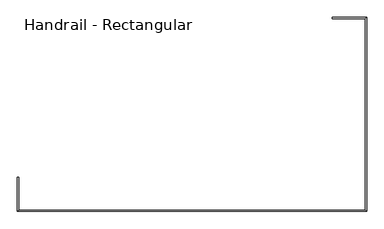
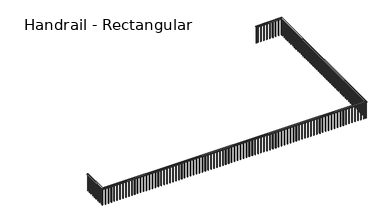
"""IFC4 building model written with IfcOpenShell, lengths in millimetres: railing geometry, Handrail - Rectangular."""

from ifc_helpers import new_model, si_unit, frame, origin, place, context, project, spatial, polyline, outline, extrude, faceted_brep, source, transform, mapped, element, save


def handrail_rectangular_d3f7d17f(model_context):
    return source(origin(), model_context, "Body", "SolidModel", [
        faceted_brep([(-11342.6589563, -34232.3683133, 10058.4), (-11342.6589563, -34232.3683133, 10007.6), (-11393.4589563, -34232.3683133, 10007.6), (-11393.4589563, -34232.3683133, 10058.4), (-11393.4589563, -35578.5683133, 10058.4), (-11342.6589563, -35527.7683133, 10058.4), (-11393.4589563, -35578.5683133, 10007.6), (-11342.6589563, -35527.7683133, 10007.6), (2322.5410437, -35578.5683133, 10058.4), (2271.7410437, -35527.7683133, 10058.4), (2322.5410437, -35578.5683133, 10007.6), (2271.7410437, -35527.7683133, 10007.6), (2322.5410437, -27958.5683133, 10058.4), (2271.7410437, -28009.3683133, 10058.4), (2322.5410437, -27958.5683133, 10007.6), (2271.7410437, -28009.3683133, 10007.6), (976.3410437, -28009.3683133, 10058.4), (976.3410437, -27958.5683133, 10058.4), (976.3410437, -27958.5683133, 10007.6), (976.3410437, -28009.3683133, 10007.6)], [[[0, 1, 2, 3]], [[0, 3, 4, 5]], [[3, 2, 6, 4]], [[2, 1, 7, 6]], [[1, 0, 5, 7]], [[5, 4, 8, 9]], [[4, 6, 10, 8]], [[6, 7, 11, 10]], [[7, 5, 9, 11]], [[9, 8, 12, 13]], [[8, 10, 14, 12]], [[10, 11, 15, 14]], [[11, 9, 13, 15]], [[16, 17, 18, 19]], [[13, 12, 17, 16]], [[12, 14, 18, 17]], [[14, 15, 19, 18]], [[15, 13, 16, 19]]]),
        extrude(outline(polyline([(1087.4660437, -27993.4933133), (1068.4160437, -27993.4933133), (1068.4160437, -27974.4433133), (1087.4660437, -27974.4433133), (1087.4660437, -27993.4933133)])), frame((0.0, 0.0, 9144.0), z_axis=(0.0, 0.0, 1.0), x_axis=(1.0, 0.0, 0.0)), (0.0, 0.0, 1.0), 863.6),
        extrude(outline(polyline([(1239.8660437, -27993.4933133), (1220.8160437, -27993.4933133), (1220.8160437, -27974.4433133), (1239.8660437, -27974.4433133), (1239.8660437, -27993.4933133)])), frame((0.0, 0.0, 9144.0), z_axis=(0.0, 0.0, 1.0), x_axis=(1.0, 0.0, 0.0)), (0.0, 0.0, 1.0), 863.6),
        extrude(outline(polyline([(1392.2660437, -27993.4933133), (1373.2160437, -27993.4933133), (1373.2160437, -27974.4433133), (1392.2660437, -27974.4433133), (1392.2660437, -27993.4933133)])), frame((0.0, 0.0, 9144.0), z_axis=(0.0, 0.0, 1.0), x_axis=(1.0, 0.0, 0.0)), (0.0, 0.0, 1.0), 863.6),
        extrude(outline(polyline([(1544.6660437, -27993.4933133), (1525.6160437, -27993.4933133), (1525.6160437, -27974.4433133), (1544.6660437, -27974.4433133), (1544.6660437, -27993.4933133)])), frame((0.0, 0.0, 9144.0), z_axis=(0.0, 0.0, 1.0), x_axis=(1.0, 0.0, 0.0)), (0.0, 0.0, 1.0), 863.6),
        extrude(outline(polyline([(1697.0660437, -27993.4933133), (1678.0160437, -27993.4933133), (1678.0160437, -27974.4433133), (1697.0660437, -27974.4433133), (1697.0660437, -27993.4933133)])), frame((0.0, 0.0, 9144.0), z_axis=(0.0, 0.0, 1.0), x_axis=(1.0, 0.0, 0.0)), (0.0, 0.0, 1.0), 863.6),
        extrude(outline(polyline([(1849.4660437, -27993.4933133), (1830.4160437, -27993.4933133), (1830.4160437, -27974.4433133), (1849.4660437, -27974.4433133), (1849.4660437, -27993.4933133)])), frame((0.0, 0.0, 9144.0), z_axis=(0.0, 0.0, 1.0), x_axis=(1.0, 0.0, 0.0)), (0.0, 0.0, 1.0), 863.6),
        extrude(outline(polyline([(2001.8660437, -27993.4933133), (1982.8160437, -27993.4933133), (1982.8160437, -27974.4433133), (2001.8660437, -27974.4433133), (2001.8660437, -27993.4933133)])), frame((0.0, 0.0, 9144.0), z_axis=(0.0, 0.0, 1.0), x_axis=(1.0, 0.0, 0.0)), (0.0, 0.0, 1.0), 863.6),
        extrude(outline(polyline([(2154.2660437, -27993.4933133), (2135.2160437, -27993.4933133), (2135.2160437, -27974.4433133), (2154.2660437, -27974.4433133), (2154.2660437, -27993.4933133)])), frame((0.0, 0.0, 9144.0), z_axis=(0.0, 0.0, 1.0), x_axis=(1.0, 0.0, 0.0)), (0.0, 0.0, 1.0), 863.6),
        extrude(outline(polyline([(2287.6160437, -28095.0933133), (2287.6160437, -28076.0433133), (2306.6660437, -28076.0433133), (2306.6660437, -28095.0933133), (2287.6160437, -28095.0933133)])), frame((0.0, 0.0, 9144.0), z_axis=(0.0, 0.0, 1.0), x_axis=(1.0, 0.0, 0.0)), (0.0, 0.0, 1.0), 863.6),
        extrude(outline(polyline([(2287.6160437, -28247.4933133), (2287.6160437, -28228.4433133), (2306.6660437, -28228.4433133), (2306.6660437, -28247.4933133), (2287.6160437, -28247.4933133)])), frame((0.0, 0.0, 9144.0), z_axis=(0.0, 0.0, 1.0), x_axis=(1.0, 0.0, 0.0)), (0.0, 0.0, 1.0), 863.6),
        extrude(outline(polyline([(2287.6160437, -28399.8933133), (2287.6160437, -28380.8433133), (2306.6660437, -28380.8433133), (2306.6660437, -28399.8933133), (2287.6160437, -28399.8933133)])), frame((0.0, 0.0, 9144.0), z_axis=(0.0, 0.0, 1.0), x_axis=(1.0, 0.0, 0.0)), (0.0, 0.0, 1.0), 863.6),
        extrude(outline(polyline([(2287.6160437, -28552.2933133), (2287.6160437, -28533.2433133), (2306.6660437, -28533.2433133), (2306.6660437, -28552.2933133), (2287.6160437, -28552.2933133)])), frame((0.0, 0.0, 9144.0), z_axis=(0.0, 0.0, 1.0), x_axis=(1.0, 0.0, 0.0)), (0.0, 0.0, 1.0), 863.6),
        extrude(outline(polyline([(2287.6160437, -28704.6933133), (2287.6160437, -28685.6433133), (2306.6660437, -28685.6433133), (2306.6660437, -28704.6933133), (2287.6160437, -28704.6933133)])), frame((0.0, 0.0, 9144.0), z_axis=(0.0, 0.0, 1.0), x_axis=(1.0, 0.0, 0.0)), (0.0, 0.0, 1.0), 863.6),
        extrude(outline(polyline([(2287.6160437, -28857.0933133), (2287.6160437, -28838.0433133), (2306.6660437, -28838.0433133), (2306.6660437, -28857.0933133), (2287.6160437, -28857.0933133)])), frame((0.0, 0.0, 9144.0), z_axis=(0.0, 0.0, 1.0), x_axis=(1.0, 0.0, 0.0)), (0.0, 0.0, 1.0), 863.6),
        extrude(outline(polyline([(2287.6160437, -29009.4933133), (2287.6160437, -28990.4433133), (2306.6660437, -28990.4433133), (2306.6660437, -29009.4933133), (2287.6160437, -29009.4933133)])), frame((0.0, 0.0, 9144.0), z_axis=(0.0, 0.0, 1.0), x_axis=(1.0, 0.0, 0.0)), (0.0, 0.0, 1.0), 863.6),
        extrude(outline(polyline([(2287.6160437, -29161.8933133), (2287.6160437, -29142.8433133), (2306.6660437, -29142.8433133), (2306.6660437, -29161.8933133), (2287.6160437, -29161.8933133)])), frame((0.0, 0.0, 9144.0), z_axis=(0.0, 0.0, 1.0), x_axis=(1.0, 0.0, 0.0)), (0.0, 0.0, 1.0), 863.6),
        extrude(outline(polyline([(2287.6160437, -29314.2933133), (2287.6160437, -29295.2433133), (2306.6660437, -29295.2433133), (2306.6660437, -29314.2933133), (2287.6160437, -29314.2933133)])), frame((0.0, 0.0, 9144.0), z_axis=(0.0, 0.0, 1.0), x_axis=(1.0, 0.0, 0.0)), (0.0, 0.0, 1.0), 863.6),
        extrude(outline(polyline([(2287.6160437, -29466.6933133), (2287.6160437, -29447.6433133), (2306.6660437, -29447.6433133), (2306.6660437, -29466.6933133), (2287.6160437, -29466.6933133)])), frame((0.0, 0.0, 9144.0), z_axis=(0.0, 0.0, 1.0), x_axis=(1.0, 0.0, 0.0)), (0.0, 0.0, 1.0), 863.6),
        extrude(outline(polyline([(2287.6160437, -29619.0933133), (2287.6160437, -29600.0433133), (2306.6660437, -29600.0433133), (2306.6660437, -29619.0933133), (2287.6160437, -29619.0933133)])), frame((0.0, 0.0, 9144.0), z_axis=(0.0, 0.0, 1.0), x_axis=(1.0, 0.0, 0.0)), (0.0, 0.0, 1.0), 863.6),
        extrude(outline(polyline([(2287.6160437, -29771.4933133), (2287.6160437, -29752.4433133), (2306.6660437, -29752.4433133), (2306.6660437, -29771.4933133), (2287.6160437, -29771.4933133)])), frame((0.0, 0.0, 9144.0), z_axis=(0.0, 0.0, 1.0), x_axis=(1.0, 0.0, 0.0)), (0.0, 0.0, 1.0), 863.6),
        extrude(outline(polyline([(2287.6160437, -29923.8933133), (2287.6160437, -29904.8433133), (2306.6660437, -29904.8433133), (2306.6660437, -29923.8933133), (2287.6160437, -29923.8933133)])), frame((0.0, 0.0, 9144.0), z_axis=(0.0, 0.0, 1.0), x_axis=(1.0, 0.0, 0.0)), (0.0, 0.0, 1.0), 863.6),
        extrude(outline(polyline([(2287.6160437, -30076.2933133), (2287.6160437, -30057.2433133), (2306.6660437, -30057.2433133), (2306.6660437, -30076.2933133), (2287.6160437, -30076.2933133)])), frame((0.0, 0.0, 9144.0), z_axis=(0.0, 0.0, 1.0), x_axis=(1.0, 0.0, 0.0)), (0.0, 0.0, 1.0), 863.6),
        extrude(outline(polyline([(2287.6160437, -30228.6933133), (2287.6160437, -30209.6433133), (2306.6660437, -30209.6433133), (2306.6660437, -30228.6933133), (2287.6160437, -30228.6933133)])), frame((0.0, 0.0, 9144.0), z_axis=(0.0, 0.0, 1.0), x_axis=(1.0, 0.0, 0.0)), (0.0, 0.0, 1.0), 863.6),
        extrude(outline(polyline([(2287.6160437, -30381.0933133), (2287.6160437, -30362.0433133), (2306.6660437, -30362.0433133), (2306.6660437, -30381.0933133), (2287.6160437, -30381.0933133)])), frame((0.0, 0.0, 9144.0), z_axis=(0.0, 0.0, 1.0), x_axis=(1.0, 0.0, 0.0)), (0.0, 0.0, 1.0), 863.6),
        extrude(outline(polyline([(2287.6160437, -30533.4933133), (2287.6160437, -30514.4433133), (2306.6660437, -30514.4433133), (2306.6660437, -30533.4933133), (2287.6160437, -30533.4933133)])), frame((0.0, 0.0, 9144.0), z_axis=(0.0, 0.0, 1.0), x_axis=(1.0, 0.0, 0.0)), (0.0, 0.0, 1.0), 863.6),
        extrude(outline(polyline([(2287.6160437, -30685.8933133), (2287.6160437, -30666.8433133), (2306.6660437, -30666.8433133), (2306.6660437, -30685.8933133), (2287.6160437, -30685.8933133)])), frame((0.0, 0.0, 9144.0), z_axis=(0.0, 0.0, 1.0), x_axis=(1.0, 0.0, 0.0)), (0.0, 0.0, 1.0), 863.6),
        extrude(outline(polyline([(2287.6160437, -30838.2933133), (2287.6160437, -30819.2433133), (2306.6660437, -30819.2433133), (2306.6660437, -30838.2933133), (2287.6160437, -30838.2933133)])), frame((0.0, 0.0, 9144.0), z_axis=(0.0, 0.0, 1.0), x_axis=(1.0, 0.0, 0.0)), (0.0, 0.0, 1.0), 863.6),
        extrude(outline(polyline([(2287.6160437, -30990.6933133), (2287.6160437, -30971.6433133), (2306.6660437, -30971.6433133), (2306.6660437, -30990.6933133), (2287.6160437, -30990.6933133)])), frame((0.0, 0.0, 9144.0), z_axis=(0.0, 0.0, 1.0), x_axis=(1.0, 0.0, 0.0)), (0.0, 0.0, 1.0), 863.6),
        extrude(outline(polyline([(2287.6160437, -31143.0933133), (2287.6160437, -31124.0433133), (2306.6660437, -31124.0433133), (2306.6660437, -31143.0933133), (2287.6160437, -31143.0933133)])), frame((0.0, 0.0, 9144.0), z_axis=(0.0, 0.0, 1.0), x_axis=(1.0, 0.0, 0.0)), (0.0, 0.0, 1.0), 863.6),
        extrude(outline(polyline([(2287.6160437, -31295.4933133), (2287.6160437, -31276.4433133), (2306.6660437, -31276.4433133), (2306.6660437, -31295.4933133), (2287.6160437, -31295.4933133)])), frame((0.0, 0.0, 9144.0), z_axis=(0.0, 0.0, 1.0), x_axis=(1.0, 0.0, 0.0)), (0.0, 0.0, 1.0), 863.6),
        extrude(outline(polyline([(2287.6160437, -31447.8933133), (2287.6160437, -31428.8433133), (2306.6660437, -31428.8433133), (2306.6660437, -31447.8933133), (2287.6160437, -31447.8933133)])), frame((0.0, 0.0, 9144.0), z_axis=(0.0, 0.0, 1.0), x_axis=(1.0, 0.0, 0.0)), (0.0, 0.0, 1.0), 863.6),
        extrude(outline(polyline([(2287.6160437, -31600.2933133), (2287.6160437, -31581.2433133), (2306.6660437, -31581.2433133), (2306.6660437, -31600.2933133), (2287.6160437, -31600.2933133)])), frame((0.0, 0.0, 9144.0), z_axis=(0.0, 0.0, 1.0), x_axis=(1.0, 0.0, 0.0)), (0.0, 0.0, 1.0), 863.6),
        extrude(outline(polyline([(2287.6160437, -31752.6933133), (2287.6160437, -31733.6433133), (2306.6660437, -31733.6433133), (2306.6660437, -31752.6933133), (2287.6160437, -31752.6933133)])), frame((0.0, 0.0, 9144.0), z_axis=(0.0, 0.0, 1.0), x_axis=(1.0, 0.0, 0.0)), (0.0, 0.0, 1.0), 863.6),
        extrude(outline(polyline([(2287.6160437, -31905.0933133), (2287.6160437, -31886.0433133), (2306.6660437, -31886.0433133), (2306.6660437, -31905.0933133), (2287.6160437, -31905.0933133)])), frame((0.0, 0.0, 9144.0), z_axis=(0.0, 0.0, 1.0), x_axis=(1.0, 0.0, 0.0)), (0.0, 0.0, 1.0), 863.6),
        extrude(outline(polyline([(2287.6160437, -32057.4933133), (2287.6160437, -32038.4433133), (2306.6660437, -32038.4433133), (2306.6660437, -32057.4933133), (2287.6160437, -32057.4933133)])), frame((0.0, 0.0, 9144.0), z_axis=(0.0, 0.0, 1.0), x_axis=(1.0, 0.0, 0.0)), (0.0, 0.0, 1.0), 863.6),
        extrude(outline(polyline([(2287.6160437, -32209.8933133), (2287.6160437, -32190.8433133), (2306.6660437, -32190.8433133), (2306.6660437, -32209.8933133), (2287.6160437, -32209.8933133)])), frame((0.0, 0.0, 9144.0), z_axis=(0.0, 0.0, 1.0), x_axis=(1.0, 0.0, 0.0)), (0.0, 0.0, 1.0), 863.6),
        extrude(outline(polyline([(2287.6160437, -32362.2933133), (2287.6160437, -32343.2433133), (2306.6660437, -32343.2433133), (2306.6660437, -32362.2933133), (2287.6160437, -32362.2933133)])), frame((0.0, 0.0, 9144.0), z_axis=(0.0, 0.0, 1.0), x_axis=(1.0, 0.0, 0.0)), (0.0, 0.0, 1.0), 863.6),
        extrude(outline(polyline([(2287.6160437, -32514.6933133), (2287.6160437, -32495.6433133), (2306.6660437, -32495.6433133), (2306.6660437, -32514.6933133), (2287.6160437, -32514.6933133)])), frame((0.0, 0.0, 9144.0), z_axis=(0.0, 0.0, 1.0), x_axis=(1.0, 0.0, 0.0)), (0.0, 0.0, 1.0), 863.6),
        extrude(outline(polyline([(2287.6160437, -32667.0933133), (2287.6160437, -32648.0433133), (2306.6660437, -32648.0433133), (2306.6660437, -32667.0933133), (2287.6160437, -32667.0933133)])), frame((0.0, 0.0, 9144.0), z_axis=(0.0, 0.0, 1.0), x_axis=(1.0, 0.0, 0.0)), (0.0, 0.0, 1.0), 863.6),
        extrude(outline(polyline([(2287.6160437, -32819.4933133), (2287.6160437, -32800.4433133), (2306.6660437, -32800.4433133), (2306.6660437, -32819.4933133), (2287.6160437, -32819.4933133)])), frame((0.0, 0.0, 9144.0), z_axis=(0.0, 0.0, 1.0), x_axis=(1.0, 0.0, 0.0)), (0.0, 0.0, 1.0), 863.6),
        extrude(outline(polyline([(2287.6160437, -32971.8933133), (2287.6160437, -32952.8433133), (2306.6660437, -32952.8433133), (2306.6660437, -32971.8933133), (2287.6160437, -32971.8933133)])), frame((0.0, 0.0, 9144.0), z_axis=(0.0, 0.0, 1.0), x_axis=(1.0, 0.0, 0.0)), (0.0, 0.0, 1.0), 863.6),
        extrude(outline(polyline([(2287.6160437, -33124.2933133), (2287.6160437, -33105.2433133), (2306.6660437, -33105.2433133), (2306.6660437, -33124.2933133), (2287.6160437, -33124.2933133)])), frame((0.0, 0.0, 9144.0), z_axis=(0.0, 0.0, 1.0), x_axis=(1.0, 0.0, 0.0)), (0.0, 0.0, 1.0), 863.6),
        extrude(outline(polyline([(2287.6160437, -33276.6933133), (2287.6160437, -33257.6433133), (2306.6660437, -33257.6433133), (2306.6660437, -33276.6933133), (2287.6160437, -33276.6933133)])), frame((0.0, 0.0, 9144.0), z_axis=(0.0, 0.0, 1.0), x_axis=(1.0, 0.0, 0.0)), (0.0, 0.0, 1.0), 863.6),
        extrude(outline(polyline([(2287.6160437, -33429.0933133), (2287.6160437, -33410.0433133), (2306.6660437, -33410.0433133), (2306.6660437, -33429.0933133), (2287.6160437, -33429.0933133)])), frame((0.0, 0.0, 9144.0), z_axis=(0.0, 0.0, 1.0), x_axis=(1.0, 0.0, 0.0)), (0.0, 0.0, 1.0), 863.6),
        extrude(outline(polyline([(2287.6160437, -33581.4933133), (2287.6160437, -33562.4433133), (2306.6660437, -33562.4433133), (2306.6660437, -33581.4933133), (2287.6160437, -33581.4933133)])), frame((0.0, 0.0, 9144.0), z_axis=(0.0, 0.0, 1.0), x_axis=(1.0, 0.0, 0.0)), (0.0, 0.0, 1.0), 863.6),
        extrude(outline(polyline([(2287.6160437, -33733.8933133), (2287.6160437, -33714.8433133), (2306.6660437, -33714.8433133), (2306.6660437, -33733.8933133), (2287.6160437, -33733.8933133)])), frame((0.0, 0.0, 9144.0), z_axis=(0.0, 0.0, 1.0), x_axis=(1.0, 0.0, 0.0)), (0.0, 0.0, 1.0), 863.6),
        extrude(outline(polyline([(2287.6160437, -33886.2933133), (2287.6160437, -33867.2433133), (2306.6660437, -33867.2433133), (2306.6660437, -33886.2933133), (2287.6160437, -33886.2933133)])), frame((0.0, 0.0, 9144.0), z_axis=(0.0, 0.0, 1.0), x_axis=(1.0, 0.0, 0.0)), (0.0, 0.0, 1.0), 863.6),
        extrude(outline(polyline([(2287.6160437, -34038.6933133), (2287.6160437, -34019.6433133), (2306.6660437, -34019.6433133), (2306.6660437, -34038.6933133), (2287.6160437, -34038.6933133)])), frame((0.0, 0.0, 9144.0), z_axis=(0.0, 0.0, 1.0), x_axis=(1.0, 0.0, 0.0)), (0.0, 0.0, 1.0), 863.6),
        extrude(outline(polyline([(2287.6160437, -34191.0933133), (2287.6160437, -34172.0433133), (2306.6660437, -34172.0433133), (2306.6660437, -34191.0933133), (2287.6160437, -34191.0933133)])), frame((0.0, 0.0, 9144.0), z_axis=(0.0, 0.0, 1.0), x_axis=(1.0, 0.0, 0.0)), (0.0, 0.0, 1.0), 863.6),
        extrude(outline(polyline([(2287.6160437, -34343.4933133), (2287.6160437, -34324.4433133), (2306.6660437, -34324.4433133), (2306.6660437, -34343.4933133), (2287.6160437, -34343.4933133)])), frame((0.0, 0.0, 9144.0), z_axis=(0.0, 0.0, 1.0), x_axis=(1.0, 0.0, 0.0)), (0.0, 0.0, 1.0), 863.6),
        extrude(outline(polyline([(2287.6160437, -34495.8933133), (2287.6160437, -34476.8433133), (2306.6660437, -34476.8433133), (2306.6660437, -34495.8933133), (2287.6160437, -34495.8933133)])), frame((0.0, 0.0, 9144.0), z_axis=(0.0, 0.0, 1.0), x_axis=(1.0, 0.0, 0.0)), (0.0, 0.0, 1.0), 863.6),
        extrude(outline(polyline([(2287.6160437, -34648.2933133), (2287.6160437, -34629.2433133), (2306.6660437, -34629.2433133), (2306.6660437, -34648.2933133), (2287.6160437, -34648.2933133)])), frame((0.0, 0.0, 9144.0), z_axis=(0.0, 0.0, 1.0), x_axis=(1.0, 0.0, 0.0)), (0.0, 0.0, 1.0), 863.6),
        extrude(outline(polyline([(2287.6160437, -34800.6933133), (2287.6160437, -34781.6433133), (2306.6660437, -34781.6433133), (2306.6660437, -34800.6933133), (2287.6160437, -34800.6933133)])), frame((0.0, 0.0, 9144.0), z_axis=(0.0, 0.0, 1.0), x_axis=(1.0, 0.0, 0.0)), (0.0, 0.0, 1.0), 863.6),
        extrude(outline(polyline([(2287.6160437, -34953.0933133), (2287.6160437, -34934.0433133), (2306.6660437, -34934.0433133), (2306.6660437, -34953.0933133), (2287.6160437, -34953.0933133)])), frame((0.0, 0.0, 9144.0), z_axis=(0.0, 0.0, 1.0), x_axis=(1.0, 0.0, 0.0)), (0.0, 0.0, 1.0), 863.6),
        extrude(outline(polyline([(2287.6160437, -35105.4933133), (2287.6160437, -35086.4433133), (2306.6660437, -35086.4433133), (2306.6660437, -35105.4933133), (2287.6160437, -35105.4933133)])), frame((0.0, 0.0, 9144.0), z_axis=(0.0, 0.0, 1.0), x_axis=(1.0, 0.0, 0.0)), (0.0, 0.0, 1.0), 863.6),
        extrude(outline(polyline([(2287.6160437, -35257.8933133), (2287.6160437, -35238.8433133), (2306.6660437, -35238.8433133), (2306.6660437, -35257.8933133), (2287.6160437, -35257.8933133)])), frame((0.0, 0.0, 9144.0), z_axis=(0.0, 0.0, 1.0), x_axis=(1.0, 0.0, 0.0)), (0.0, 0.0, 1.0), 863.6),
        extrude(outline(polyline([(2287.6160437, -35410.2933133), (2287.6160437, -35391.2433133), (2306.6660437, -35391.2433133), (2306.6660437, -35410.2933133), (2287.6160437, -35410.2933133)])), frame((0.0, 0.0, 9144.0), z_axis=(0.0, 0.0, 1.0), x_axis=(1.0, 0.0, 0.0)), (0.0, 0.0, 1.0), 863.6),
        extrude(outline(polyline([(2186.0160437, -35543.6433133), (2205.0660437, -35543.6433133), (2205.0660437, -35562.6933133), (2186.0160437, -35562.6933133), (2186.0160437, -35543.6433133)])), frame((0.0, 0.0, 9144.0), z_axis=(0.0, 0.0, 1.0), x_axis=(1.0, 0.0, 0.0)), (0.0, 0.0, 1.0), 863.6),
        extrude(outline(polyline([(2033.6160437, -35543.6433133), (2052.6660437, -35543.6433133), (2052.6660437, -35562.6933133), (2033.6160437, -35562.6933133), (2033.6160437, -35543.6433133)])), frame((0.0, 0.0, 9144.0), z_axis=(0.0, 0.0, 1.0), x_axis=(1.0, 0.0, 0.0)), (0.0, 0.0, 1.0), 863.6),
        extrude(outline(polyline([(1881.2160437, -35543.6433133), (1900.2660437, -35543.6433133), (1900.2660437, -35562.6933133), (1881.2160437, -35562.6933133), (1881.2160437, -35543.6433133)])), frame((0.0, 0.0, 9144.0), z_axis=(0.0, 0.0, 1.0), x_axis=(1.0, 0.0, 0.0)), (0.0, 0.0, 1.0), 863.6),
        extrude(outline(polyline([(1728.8160437, -35543.6433133), (1747.8660437, -35543.6433133), (1747.8660437, -35562.6933133), (1728.8160437, -35562.6933133), (1728.8160437, -35543.6433133)])), frame((0.0, 0.0, 9144.0), z_axis=(0.0, 0.0, 1.0), x_axis=(1.0, 0.0, 0.0)), (0.0, 0.0, 1.0), 863.6),
        extrude(outline(polyline([(1576.4160437, -35543.6433133), (1595.4660437, -35543.6433133), (1595.4660437, -35562.6933133), (1576.4160437, -35562.6933133), (1576.4160437, -35543.6433133)])), frame((0.0, 0.0, 9144.0), z_axis=(0.0, 0.0, 1.0), x_axis=(1.0, 0.0, 0.0)), (0.0, 0.0, 1.0), 863.6),
        extrude(outline(polyline([(1424.0160437, -35543.6433133), (1443.0660437, -35543.6433133), (1443.0660437, -35562.6933133), (1424.0160437, -35562.6933133), (1424.0160437, -35543.6433133)])), frame((0.0, 0.0, 9144.0), z_axis=(0.0, 0.0, 1.0), x_axis=(1.0, 0.0, 0.0)), (0.0, 0.0, 1.0), 863.6),
        extrude(outline(polyline([(1271.6160437, -35543.6433133), (1290.6660437, -35543.6433133), (1290.6660437, -35562.6933133), (1271.6160437, -35562.6933133), (1271.6160437, -35543.6433133)])), frame((0.0, 0.0, 9144.0), z_axis=(0.0, 0.0, 1.0), x_axis=(1.0, 0.0, 0.0)), (0.0, 0.0, 1.0), 863.6),
        extrude(outline(polyline([(1119.2160437, -35543.6433133), (1138.2660437, -35543.6433133), (1138.2660437, -35562.6933133), (1119.2160437, -35562.6933133), (1119.2160437, -35543.6433133)])), frame((0.0, 0.0, 9144.0), z_axis=(0.0, 0.0, 1.0), x_axis=(1.0, 0.0, 0.0)), (0.0, 0.0, 1.0), 863.6),
        extrude(outline(polyline([(966.8160437, -35543.6433133), (985.8660437, -35543.6433133), (985.8660437, -35562.6933133), (966.8160437, -35562.6933133), (966.8160437, -35543.6433133)])), frame((0.0, 0.0, 9144.0), z_axis=(0.0, 0.0, 1.0), x_axis=(1.0, 0.0, 0.0)), (0.0, 0.0, 1.0), 863.6),
        extrude(outline(polyline([(814.4160437, -35543.6433133), (833.4660437, -35543.6433133), (833.4660437, -35562.6933133), (814.4160437, -35562.6933133), (814.4160437, -35543.6433133)])), frame((0.0, 0.0, 9144.0), z_axis=(0.0, 0.0, 1.0), x_axis=(1.0, 0.0, 0.0)), (0.0, 0.0, 1.0), 863.6),
        extrude(outline(polyline([(662.0160437, -35543.6433133), (681.0660437, -35543.6433133), (681.0660437, -35562.6933133), (662.0160437, -35562.6933133), (662.0160437, -35543.6433133)])), frame((0.0, 0.0, 9144.0), z_axis=(0.0, 0.0, 1.0), x_axis=(1.0, 0.0, 0.0)), (0.0, 0.0, 1.0), 863.6),
        extrude(outline(polyline([(509.6160437, -35543.6433133), (528.6660437, -35543.6433133), (528.6660437, -35562.6933133), (509.6160437, -35562.6933133), (509.6160437, -35543.6433133)])), frame((0.0, 0.0, 9144.0), z_axis=(0.0, 0.0, 1.0), x_axis=(1.0, 0.0, 0.0)), (0.0, 0.0, 1.0), 863.6),
        extrude(outline(polyline([(357.2160437, -35543.6433133), (376.2660437, -35543.6433133), (376.2660437, -35562.6933133), (357.2160437, -35562.6933133), (357.2160437, -35543.6433133)])), frame((0.0, 0.0, 9144.0), z_axis=(0.0, 0.0, 1.0), x_axis=(1.0, 0.0, 0.0)), (0.0, 0.0, 1.0), 863.6),
        extrude(outline(polyline([(204.8160437, -35543.6433133), (223.8660437, -35543.6433133), (223.8660437, -35562.6933133), (204.8160437, -35562.6933133), (204.8160437, -35543.6433133)])), frame((0.0, 0.0, 9144.0), z_axis=(0.0, 0.0, 1.0), x_axis=(1.0, 0.0, 0.0)), (0.0, 0.0, 1.0), 863.6),
        extrude(outline(polyline([(52.4160437, -35543.6433133), (71.4660437, -35543.6433133), (71.4660437, -35562.6933133), (52.4160437, -35562.6933133), (52.4160437, -35543.6433133)])), frame((0.0, 0.0, 9144.0), z_axis=(0.0, 0.0, 1.0), x_axis=(1.0, 0.0, 0.0)), (0.0, 0.0, 1.0), 863.6),
        extrude(outline(polyline([(-99.9839563, -35543.6433133), (-80.9339563, -35543.6433133), (-80.9339563, -35562.6933133), (-99.9839563, -35562.6933133), (-99.9839563, -35543.6433133)])), frame((0.0, 0.0, 9144.0), z_axis=(0.0, 0.0, 1.0), x_axis=(1.0, 0.0, 0.0)), (0.0, 0.0, 1.0), 863.6),
        extrude(outline(polyline([(-252.3839563, -35543.6433133), (-233.3339563, -35543.6433133), (-233.3339563, -35562.6933133), (-252.3839563, -35562.6933133), (-252.3839563, -35543.6433133)])), frame((0.0, 0.0, 9144.0), z_axis=(0.0, 0.0, 1.0), x_axis=(1.0, 0.0, 0.0)), (0.0, 0.0, 1.0), 863.6),
        extrude(outline(polyline([(-404.7839563, -35543.6433133), (-385.7339563, -35543.6433133), (-385.7339563, -35562.6933133), (-404.7839563, -35562.6933133), (-404.7839563, -35543.6433133)])), frame((0.0, 0.0, 9144.0), z_axis=(0.0, 0.0, 1.0), x_axis=(1.0, 0.0, 0.0)), (0.0, 0.0, 1.0), 863.6),
        extrude(outline(polyline([(-557.1839563, -35543.6433133), (-538.1339563, -35543.6433133), (-538.1339563, -35562.6933133), (-557.1839563, -35562.6933133), (-557.1839563, -35543.6433133)])), frame((0.0, 0.0, 9144.0), z_axis=(0.0, 0.0, 1.0), x_axis=(1.0, 0.0, 0.0)), (0.0, 0.0, 1.0), 863.6),
        extrude(outline(polyline([(-709.5839563, -35543.6433133), (-690.5339563, -35543.6433133), (-690.5339563, -35562.6933133), (-709.5839563, -35562.6933133), (-709.5839563, -35543.6433133)])), frame((0.0, 0.0, 9144.0), z_axis=(0.0, 0.0, 1.0), x_axis=(1.0, 0.0, 0.0)), (0.0, 0.0, 1.0), 863.6),
        extrude(outline(polyline([(-861.9839563, -35543.6433133), (-842.9339563, -35543.6433133), (-842.9339563, -35562.6933133), (-861.9839563, -35562.6933133), (-861.9839563, -35543.6433133)])), frame((0.0, 0.0, 9144.0), z_axis=(0.0, 0.0, 1.0), x_axis=(1.0, 0.0, 0.0)), (0.0, 0.0, 1.0), 863.6),
        extrude(outline(polyline([(-1014.3839563, -35543.6433133), (-995.3339563, -35543.6433133), (-995.3339563, -35562.6933133), (-1014.3839563, -35562.6933133), (-1014.3839563, -35543.6433133)])), frame((0.0, 0.0, 9144.0), z_axis=(0.0, 0.0, 1.0), x_axis=(1.0, 0.0, 0.0)), (0.0, 0.0, 1.0), 863.6),
        extrude(outline(polyline([(-1166.7839563, -35543.6433133), (-1147.7339563, -35543.6433133), (-1147.7339563, -35562.6933133), (-1166.7839563, -35562.6933133), (-1166.7839563, -35543.6433133)])), frame((0.0, 0.0, 9144.0), z_axis=(0.0, 0.0, 1.0), x_axis=(1.0, 0.0, 0.0)), (0.0, 0.0, 1.0), 863.6),
        extrude(outline(polyline([(-1319.1839563, -35543.6433133), (-1300.1339563, -35543.6433133), (-1300.1339563, -35562.6933133), (-1319.1839563, -35562.6933133), (-1319.1839563, -35543.6433133)])), frame((0.0, 0.0, 9144.0), z_axis=(0.0, 0.0, 1.0), x_axis=(1.0, 0.0, 0.0)), (0.0, 0.0, 1.0), 863.6),
        extrude(outline(polyline([(-1471.5839563, -35543.6433133), (-1452.5339563, -35543.6433133), (-1452.5339563, -35562.6933133), (-1471.5839563, -35562.6933133), (-1471.5839563, -35543.6433133)])), frame((0.0, 0.0, 9144.0), z_axis=(0.0, 0.0, 1.0), x_axis=(1.0, 0.0, 0.0)), (0.0, 0.0, 1.0), 863.6),
        extrude(outline(polyline([(-1623.9839563, -35543.6433133), (-1604.9339563, -35543.6433133), (-1604.9339563, -35562.6933133), (-1623.9839563, -35562.6933133), (-1623.9839563, -35543.6433133)])), frame((0.0, 0.0, 9144.0), z_axis=(0.0, 0.0, 1.0), x_axis=(1.0, 0.0, 0.0)), (0.0, 0.0, 1.0), 863.6),
        extrude(outline(polyline([(-1776.3839563, -35543.6433133), (-1757.3339563, -35543.6433133), (-1757.3339563, -35562.6933133), (-1776.3839563, -35562.6933133), (-1776.3839563, -35543.6433133)])), frame((0.0, 0.0, 9144.0), z_axis=(0.0, 0.0, 1.0), x_axis=(1.0, 0.0, 0.0)), (0.0, 0.0, 1.0), 863.6),
        extrude(outline(polyline([(-1928.7839563, -35543.6433133), (-1909.7339563, -35543.6433133), (-1909.7339563, -35562.6933133), (-1928.7839563, -35562.6933133), (-1928.7839563, -35543.6433133)])), frame((0.0, 0.0, 9144.0), z_axis=(0.0, 0.0, 1.0), x_axis=(1.0, 0.0, 0.0)), (0.0, 0.0, 1.0), 863.6),
        extrude(outline(polyline([(-2081.1839563, -35543.6433133), (-2062.1339563, -35543.6433133), (-2062.1339563, -35562.6933133), (-2081.1839563, -35562.6933133), (-2081.1839563, -35543.6433133)])), frame((0.0, 0.0, 9144.0), z_axis=(0.0, 0.0, 1.0), x_axis=(1.0, 0.0, 0.0)), (0.0, 0.0, 1.0), 863.6),
        extrude(outline(polyline([(-2233.5839563, -35543.6433133), (-2214.5339563, -35543.6433133), (-2214.5339563, -35562.6933133), (-2233.5839563, -35562.6933133), (-2233.5839563, -35543.6433133)])), frame((0.0, 0.0, 9144.0), z_axis=(0.0, 0.0, 1.0), x_axis=(1.0, 0.0, 0.0)), (0.0, 0.0, 1.0), 863.6),
        extrude(outline(polyline([(-2385.9839563, -35543.6433133), (-2366.9339563, -35543.6433133), (-2366.9339563, -35562.6933133), (-2385.9839563, -35562.6933133), (-2385.9839563, -35543.6433133)])), frame((0.0, 0.0, 9144.0), z_axis=(0.0, 0.0, 1.0), x_axis=(1.0, 0.0, 0.0)), (0.0, 0.0, 1.0), 863.6),
        extrude(outline(polyline([(-2538.3839563, -35543.6433133), (-2519.3339563, -35543.6433133), (-2519.3339563, -35562.6933133), (-2538.3839563, -35562.6933133), (-2538.3839563, -35543.6433133)])), frame((0.0, 0.0, 9144.0), z_axis=(0.0, 0.0, 1.0), x_axis=(1.0, 0.0, 0.0)), (0.0, 0.0, 1.0), 863.6),
        extrude(outline(polyline([(-2690.7839563, -35543.6433133), (-2671.7339563, -35543.6433133), (-2671.7339563, -35562.6933133), (-2690.7839563, -35562.6933133), (-2690.7839563, -35543.6433133)])), frame((0.0, 0.0, 9144.0), z_axis=(0.0, 0.0, 1.0), x_axis=(1.0, 0.0, 0.0)), (0.0, 0.0, 1.0), 863.6),
        extrude(outline(polyline([(-2843.1839563, -35543.6433133), (-2824.1339563, -35543.6433133), (-2824.1339563, -35562.6933133), (-2843.1839563, -35562.6933133), (-2843.1839563, -35543.6433133)])), frame((0.0, 0.0, 9144.0), z_axis=(0.0, 0.0, 1.0), x_axis=(1.0, 0.0, 0.0)), (0.0, 0.0, 1.0), 863.6),
        extrude(outline(polyline([(-2995.5839563, -35543.6433133), (-2976.5339563, -35543.6433133), (-2976.5339563, -35562.6933133), (-2995.5839563, -35562.6933133), (-2995.5839563, -35543.6433133)])), frame((0.0, 0.0, 9144.0), z_axis=(0.0, 0.0, 1.0), x_axis=(1.0, 0.0, 0.0)), (0.0, 0.0, 1.0), 863.6),
        extrude(outline(polyline([(-3147.9839563, -35543.6433133), (-3128.9339563, -35543.6433133), (-3128.9339563, -35562.6933133), (-3147.9839563, -35562.6933133), (-3147.9839563, -35543.6433133)])), frame((0.0, 0.0, 9144.0), z_axis=(0.0, 0.0, 1.0), x_axis=(1.0, 0.0, 0.0)), (0.0, 0.0, 1.0), 863.6),
        extrude(outline(polyline([(-3300.3839563, -35543.6433133), (-3281.3339563, -35543.6433133), (-3281.3339563, -35562.6933133), (-3300.3839563, -35562.6933133), (-3300.3839563, -35543.6433133)])), frame((0.0, 0.0, 9144.0), z_axis=(0.0, 0.0, 1.0), x_axis=(1.0, 0.0, 0.0)), (0.0, 0.0, 1.0), 863.6),
        extrude(outline(polyline([(-3452.7839563, -35543.6433133), (-3433.7339563, -35543.6433133), (-3433.7339563, -35562.6933133), (-3452.7839563, -35562.6933133), (-3452.7839563, -35543.6433133)])), frame((0.0, 0.0, 9144.0), z_axis=(0.0, 0.0, 1.0), x_axis=(1.0, 0.0, 0.0)), (0.0, 0.0, 1.0), 863.6),
        extrude(outline(polyline([(-3605.1839563, -35543.6433133), (-3586.1339563, -35543.6433133), (-3586.1339563, -35562.6933133), (-3605.1839563, -35562.6933133), (-3605.1839563, -35543.6433133)])), frame((0.0, 0.0, 9144.0), z_axis=(0.0, 0.0, 1.0), x_axis=(1.0, 0.0, 0.0)), (0.0, 0.0, 1.0), 863.6),
        extrude(outline(polyline([(-3757.5839563, -35543.6433133), (-3738.5339563, -35543.6433133), (-3738.5339563, -35562.6933133), (-3757.5839563, -35562.6933133), (-3757.5839563, -35543.6433133)])), frame((0.0, 0.0, 9144.0), z_axis=(0.0, 0.0, 1.0), x_axis=(1.0, 0.0, 0.0)), (0.0, 0.0, 1.0), 863.6),
        extrude(outline(polyline([(-3909.9839563, -35543.6433133), (-3890.9339563, -35543.6433133), (-3890.9339563, -35562.6933133), (-3909.9839563, -35562.6933133), (-3909.9839563, -35543.6433133)])), frame((0.0, 0.0, 9144.0), z_axis=(0.0, 0.0, 1.0), x_axis=(1.0, 0.0, 0.0)), (0.0, 0.0, 1.0), 863.6),
        extrude(outline(polyline([(-4062.3839563, -35543.6433133), (-4043.3339563, -35543.6433133), (-4043.3339563, -35562.6933133), (-4062.3839563, -35562.6933133), (-4062.3839563, -35543.6433133)])), frame((0.0, 0.0, 9144.0), z_axis=(0.0, 0.0, 1.0), x_axis=(1.0, 0.0, 0.0)), (0.0, 0.0, 1.0), 863.6),
        extrude(outline(polyline([(-4214.7839563, -35543.6433133), (-4195.7339563, -35543.6433133), (-4195.7339563, -35562.6933133), (-4214.7839563, -35562.6933133), (-4214.7839563, -35543.6433133)])), frame((0.0, 0.0, 9144.0), z_axis=(0.0, 0.0, 1.0), x_axis=(1.0, 0.0, 0.0)), (0.0, 0.0, 1.0), 863.6),
        extrude(outline(polyline([(-4367.1839563, -35543.6433133), (-4348.1339563, -35543.6433133), (-4348.1339563, -35562.6933133), (-4367.1839563, -35562.6933133), (-4367.1839563, -35543.6433133)])), frame((0.0, 0.0, 9144.0), z_axis=(0.0, 0.0, 1.0), x_axis=(1.0, 0.0, 0.0)), (0.0, 0.0, 1.0), 863.6),
        extrude(outline(polyline([(-4519.5839563, -35543.6433133), (-4500.5339563, -35543.6433133), (-4500.5339563, -35562.6933133), (-4519.5839563, -35562.6933133), (-4519.5839563, -35543.6433133)])), frame((0.0, 0.0, 9144.0), z_axis=(0.0, 0.0, 1.0), x_axis=(1.0, 0.0, 0.0)), (0.0, 0.0, 1.0), 863.6),
        extrude(outline(polyline([(-4671.9839563, -35543.6433133), (-4652.9339563, -35543.6433133), (-4652.9339563, -35562.6933133), (-4671.9839563, -35562.6933133), (-4671.9839563, -35543.6433133)])), frame((0.0, 0.0, 9144.0), z_axis=(0.0, 0.0, 1.0), x_axis=(1.0, 0.0, 0.0)), (0.0, 0.0, 1.0), 863.6),
        extrude(outline(polyline([(-4824.3839563, -35543.6433133), (-4805.3339563, -35543.6433133), (-4805.3339563, -35562.6933133), (-4824.3839563, -35562.6933133), (-4824.3839563, -35543.6433133)])), frame((0.0, 0.0, 9144.0), z_axis=(0.0, 0.0, 1.0), x_axis=(1.0, 0.0, 0.0)), (0.0, 0.0, 1.0), 863.6),
        extrude(outline(polyline([(-4976.7839563, -35543.6433133), (-4957.7339563, -35543.6433133), (-4957.7339563, -35562.6933133), (-4976.7839563, -35562.6933133), (-4976.7839563, -35543.6433133)])), frame((0.0, 0.0, 9144.0), z_axis=(0.0, 0.0, 1.0), x_axis=(1.0, 0.0, 0.0)), (0.0, 0.0, 1.0), 863.6),
        extrude(outline(polyline([(-5129.1839563, -35543.6433133), (-5110.1339563, -35543.6433133), (-5110.1339563, -35562.6933133), (-5129.1839563, -35562.6933133), (-5129.1839563, -35543.6433133)])), frame((0.0, 0.0, 9144.0), z_axis=(0.0, 0.0, 1.0), x_axis=(1.0, 0.0, 0.0)), (0.0, 0.0, 1.0), 863.6),
        extrude(outline(polyline([(-5281.5839563, -35543.6433133), (-5262.5339563, -35543.6433133), (-5262.5339563, -35562.6933133), (-5281.5839563, -35562.6933133), (-5281.5839563, -35543.6433133)])), frame((0.0, 0.0, 9144.0), z_axis=(0.0, 0.0, 1.0), x_axis=(1.0, 0.0, 0.0)), (0.0, 0.0, 1.0), 863.6),
        extrude(outline(polyline([(-5433.9839563, -35543.6433133), (-5414.9339563, -35543.6433133), (-5414.9339563, -35562.6933133), (-5433.9839563, -35562.6933133), (-5433.9839563, -35543.6433133)])), frame((0.0, 0.0, 9144.0), z_axis=(0.0, 0.0, 1.0), x_axis=(1.0, 0.0, 0.0)), (0.0, 0.0, 1.0), 863.6),
        extrude(outline(polyline([(-5586.3839563, -35543.6433133), (-5567.3339563, -35543.6433133), (-5567.3339563, -35562.6933133), (-5586.3839563, -35562.6933133), (-5586.3839563, -35543.6433133)])), frame((0.0, 0.0, 9144.0), z_axis=(0.0, 0.0, 1.0), x_axis=(1.0, 0.0, 0.0)), (0.0, 0.0, 1.0), 863.6),
        extrude(outline(polyline([(-5738.7839563, -35543.6433133), (-5719.7339563, -35543.6433133), (-5719.7339563, -35562.6933133), (-5738.7839563, -35562.6933133), (-5738.7839563, -35543.6433133)])), frame((0.0, 0.0, 9144.0), z_axis=(0.0, 0.0, 1.0), x_axis=(1.0, 0.0, 0.0)), (0.0, 0.0, 1.0), 863.6),
        extrude(outline(polyline([(-5891.1839563, -35543.6433133), (-5872.1339563, -35543.6433133), (-5872.1339563, -35562.6933133), (-5891.1839563, -35562.6933133), (-5891.1839563, -35543.6433133)])), frame((0.0, 0.0, 9144.0), z_axis=(0.0, 0.0, 1.0), x_axis=(1.0, 0.0, 0.0)), (0.0, 0.0, 1.0), 863.6),
        extrude(outline(polyline([(-6043.5839563, -35543.6433133), (-6024.5339563, -35543.6433133), (-6024.5339563, -35562.6933133), (-6043.5839563, -35562.6933133), (-6043.5839563, -35543.6433133)])), frame((0.0, 0.0, 9144.0), z_axis=(0.0, 0.0, 1.0), x_axis=(1.0, 0.0, 0.0)), (0.0, 0.0, 1.0), 863.6),
        extrude(outline(polyline([(-6195.9839563, -35543.6433133), (-6176.9339563, -35543.6433133), (-6176.9339563, -35562.6933133), (-6195.9839563, -35562.6933133), (-6195.9839563, -35543.6433133)])), frame((0.0, 0.0, 9144.0), z_axis=(0.0, 0.0, 1.0), x_axis=(1.0, 0.0, 0.0)), (0.0, 0.0, 1.0), 863.6),
        extrude(outline(polyline([(-6348.3839563, -35543.6433133), (-6329.3339563, -35543.6433133), (-6329.3339563, -35562.6933133), (-6348.3839563, -35562.6933133), (-6348.3839563, -35543.6433133)])), frame((0.0, 0.0, 9144.0), z_axis=(0.0, 0.0, 1.0), x_axis=(1.0, 0.0, 0.0)), (0.0, 0.0, 1.0), 863.6),
        extrude(outline(polyline([(-6500.7839563, -35543.6433133), (-6481.7339563, -35543.6433133), (-6481.7339563, -35562.6933133), (-6500.7839563, -35562.6933133), (-6500.7839563, -35543.6433133)])), frame((0.0, 0.0, 9144.0), z_axis=(0.0, 0.0, 1.0), x_axis=(1.0, 0.0, 0.0)), (0.0, 0.0, 1.0), 863.6),
        extrude(outline(polyline([(-6653.1839563, -35543.6433133), (-6634.1339563, -35543.6433133), (-6634.1339563, -35562.6933133), (-6653.1839563, -35562.6933133), (-6653.1839563, -35543.6433133)])), frame((0.0, 0.0, 9144.0), z_axis=(0.0, 0.0, 1.0), x_axis=(1.0, 0.0, 0.0)), (0.0, 0.0, 1.0), 863.6),
        extrude(outline(polyline([(-6805.5839563, -35543.6433133), (-6786.5339563, -35543.6433133), (-6786.5339563, -35562.6933133), (-6805.5839563, -35562.6933133), (-6805.5839563, -35543.6433133)])), frame((0.0, 0.0, 9144.0), z_axis=(0.0, 0.0, 1.0), x_axis=(1.0, 0.0, 0.0)), (0.0, 0.0, 1.0), 863.6),
        extrude(outline(polyline([(-6957.9839563, -35543.6433133), (-6938.9339563, -35543.6433133), (-6938.9339563, -35562.6933133), (-6957.9839563, -35562.6933133), (-6957.9839563, -35543.6433133)])), frame((0.0, 0.0, 9144.0), z_axis=(0.0, 0.0, 1.0), x_axis=(1.0, 0.0, 0.0)), (0.0, 0.0, 1.0), 863.6),
        extrude(outline(polyline([(-7110.3839563, -35543.6433133), (-7091.3339563, -35543.6433133), (-7091.3339563, -35562.6933133), (-7110.3839563, -35562.6933133), (-7110.3839563, -35543.6433133)])), frame((0.0, 0.0, 9144.0), z_axis=(0.0, 0.0, 1.0), x_axis=(1.0, 0.0, 0.0)), (0.0, 0.0, 1.0), 863.6),
        extrude(outline(polyline([(-7262.7839563, -35543.6433133), (-7243.7339563, -35543.6433133), (-7243.7339563, -35562.6933133), (-7262.7839563, -35562.6933133), (-7262.7839563, -35543.6433133)])), frame((0.0, 0.0, 9144.0), z_axis=(0.0, 0.0, 1.0), x_axis=(1.0, 0.0, 0.0)), (0.0, 0.0, 1.0), 863.6),
        extrude(outline(polyline([(-7415.1839563, -35543.6433133), (-7396.1339563, -35543.6433133), (-7396.1339563, -35562.6933133), (-7415.1839563, -35562.6933133), (-7415.1839563, -35543.6433133)])), frame((0.0, 0.0, 9144.0), z_axis=(0.0, 0.0, 1.0), x_axis=(1.0, 0.0, 0.0)), (0.0, 0.0, 1.0), 863.6),
        extrude(outline(polyline([(-7567.5839563, -35543.6433133), (-7548.5339563, -35543.6433133), (-7548.5339563, -35562.6933133), (-7567.5839563, -35562.6933133), (-7567.5839563, -35543.6433133)])), frame((0.0, 0.0, 9144.0), z_axis=(0.0, 0.0, 1.0), x_axis=(1.0, 0.0, 0.0)), (0.0, 0.0, 1.0), 863.6),
        extrude(outline(polyline([(-7719.9839563, -35543.6433133), (-7700.9339563, -35543.6433133), (-7700.9339563, -35562.6933133), (-7719.9839563, -35562.6933133), (-7719.9839563, -35543.6433133)])), frame((0.0, 0.0, 9144.0), z_axis=(0.0, 0.0, 1.0), x_axis=(1.0, 0.0, 0.0)), (0.0, 0.0, 1.0), 863.6),
        extrude(outline(polyline([(-7872.3839563, -35543.6433133), (-7853.3339563, -35543.6433133), (-7853.3339563, -35562.6933133), (-7872.3839563, -35562.6933133), (-7872.3839563, -35543.6433133)])), frame((0.0, 0.0, 9144.0), z_axis=(0.0, 0.0, 1.0), x_axis=(1.0, 0.0, 0.0)), (0.0, 0.0, 1.0), 863.6),
        extrude(outline(polyline([(-8024.7839563, -35543.6433133), (-8005.7339563, -35543.6433133), (-8005.7339563, -35562.6933133), (-8024.7839563, -35562.6933133), (-8024.7839563, -35543.6433133)])), frame((0.0, 0.0, 9144.0), z_axis=(0.0, 0.0, 1.0), x_axis=(1.0, 0.0, 0.0)), (0.0, 0.0, 1.0), 863.6),
        extrude(outline(polyline([(-8177.1839563, -35543.6433133), (-8158.1339563, -35543.6433133), (-8158.1339563, -35562.6933133), (-8177.1839563, -35562.6933133), (-8177.1839563, -35543.6433133)])), frame((0.0, 0.0, 9144.0), z_axis=(0.0, 0.0, 1.0), x_axis=(1.0, 0.0, 0.0)), (0.0, 0.0, 1.0), 863.6),
        extrude(outline(polyline([(-8329.5839563, -35543.6433133), (-8310.5339563, -35543.6433133), (-8310.5339563, -35562.6933133), (-8329.5839563, -35562.6933133), (-8329.5839563, -35543.6433133)])), frame((0.0, 0.0, 9144.0), z_axis=(0.0, 0.0, 1.0), x_axis=(1.0, 0.0, 0.0)), (0.0, 0.0, 1.0), 863.6),
        extrude(outline(polyline([(-8481.9839563, -35543.6433133), (-8462.9339563, -35543.6433133), (-8462.9339563, -35562.6933133), (-8481.9839563, -35562.6933133), (-8481.9839563, -35543.6433133)])), frame((0.0, 0.0, 9144.0), z_axis=(0.0, 0.0, 1.0), x_axis=(1.0, 0.0, 0.0)), (0.0, 0.0, 1.0), 863.6),
        extrude(outline(polyline([(-8634.3839563, -35543.6433133), (-8615.3339563, -35543.6433133), (-8615.3339563, -35562.6933133), (-8634.3839563, -35562.6933133), (-8634.3839563, -35543.6433133)])), frame((0.0, 0.0, 9144.0), z_axis=(0.0, 0.0, 1.0), x_axis=(1.0, 0.0, 0.0)), (0.0, 0.0, 1.0), 863.6),
        extrude(outline(polyline([(-8786.7839563, -35543.6433133), (-8767.7339563, -35543.6433133), (-8767.7339563, -35562.6933133), (-8786.7839563, -35562.6933133), (-8786.7839563, -35543.6433133)])), frame((0.0, 0.0, 9144.0), z_axis=(0.0, 0.0, 1.0), x_axis=(1.0, 0.0, 0.0)), (0.0, 0.0, 1.0), 863.6),
        extrude(outline(polyline([(-8939.1839563, -35543.6433133), (-8920.1339563, -35543.6433133), (-8920.1339563, -35562.6933133), (-8939.1839563, -35562.6933133), (-8939.1839563, -35543.6433133)])), frame((0.0, 0.0, 9144.0), z_axis=(0.0, 0.0, 1.0), x_axis=(1.0, 0.0, 0.0)), (0.0, 0.0, 1.0), 863.6),
        extrude(outline(polyline([(-9091.5839563, -35543.6433133), (-9072.5339563, -35543.6433133), (-9072.5339563, -35562.6933133), (-9091.5839563, -35562.6933133), (-9091.5839563, -35543.6433133)])), frame((0.0, 0.0, 9144.0), z_axis=(0.0, 0.0, 1.0), x_axis=(1.0, 0.0, 0.0)), (0.0, 0.0, 1.0), 863.6),
        extrude(outline(polyline([(-9243.9839563, -35543.6433133), (-9224.9339563, -35543.6433133), (-9224.9339563, -35562.6933133), (-9243.9839563, -35562.6933133), (-9243.9839563, -35543.6433133)])), frame((0.0, 0.0, 9144.0), z_axis=(0.0, 0.0, 1.0), x_axis=(1.0, 0.0, 0.0)), (0.0, 0.0, 1.0), 863.6),
        extrude(outline(polyline([(-9396.3839563, -35543.6433133), (-9377.3339563, -35543.6433133), (-9377.3339563, -35562.6933133), (-9396.3839563, -35562.6933133), (-9396.3839563, -35543.6433133)])), frame((0.0, 0.0, 9144.0), z_axis=(0.0, 0.0, 1.0), x_axis=(1.0, 0.0, 0.0)), (0.0, 0.0, 1.0), 863.6),
        extrude(outline(polyline([(-9548.7839563, -35543.6433133), (-9529.7339563, -35543.6433133), (-9529.7339563, -35562.6933133), (-9548.7839563, -35562.6933133), (-9548.7839563, -35543.6433133)])), frame((0.0, 0.0, 9144.0), z_axis=(0.0, 0.0, 1.0), x_axis=(1.0, 0.0, 0.0)), (0.0, 0.0, 1.0), 863.6),
        extrude(outline(polyline([(-9701.1839563, -35543.6433133), (-9682.1339563, -35543.6433133), (-9682.1339563, -35562.6933133), (-9701.1839563, -35562.6933133), (-9701.1839563, -35543.6433133)])), frame((0.0, 0.0, 9144.0), z_axis=(0.0, 0.0, 1.0), x_axis=(1.0, 0.0, 0.0)), (0.0, 0.0, 1.0), 863.6),
        extrude(outline(polyline([(-9853.5839563, -35543.6433133), (-9834.5339563, -35543.6433133), (-9834.5339563, -35562.6933133), (-9853.5839563, -35562.6933133), (-9853.5839563, -35543.6433133)])), frame((0.0, 0.0, 9144.0), z_axis=(0.0, 0.0, 1.0), x_axis=(1.0, 0.0, 0.0)), (0.0, 0.0, 1.0), 863.6),
        extrude(outline(polyline([(-10005.9839563, -35543.6433133), (-9986.9339563, -35543.6433133), (-9986.9339563, -35562.6933133), (-10005.9839563, -35562.6933133), (-10005.9839563, -35543.6433133)])), frame((0.0, 0.0, 9144.0), z_axis=(0.0, 0.0, 1.0), x_axis=(1.0, 0.0, 0.0)), (0.0, 0.0, 1.0), 863.6),
        extrude(outline(polyline([(-10158.3839563, -35543.6433133), (-10139.3339563, -35543.6433133), (-10139.3339563, -35562.6933133), (-10158.3839563, -35562.6933133), (-10158.3839563, -35543.6433133)])), frame((0.0, 0.0, 9144.0), z_axis=(0.0, 0.0, 1.0), x_axis=(1.0, 0.0, 0.0)), (0.0, 0.0, 1.0), 863.6),
        extrude(outline(polyline([(-10310.7839563, -35543.6433133), (-10291.7339563, -35543.6433133), (-10291.7339563, -35562.6933133), (-10310.7839563, -35562.6933133), (-10310.7839563, -35543.6433133)])), frame((0.0, 0.0, 9144.0), z_axis=(0.0, 0.0, 1.0), x_axis=(1.0, 0.0, 0.0)), (0.0, 0.0, 1.0), 863.6),
        extrude(outline(polyline([(-10463.1839563, -35543.6433133), (-10444.1339563, -35543.6433133), (-10444.1339563, -35562.6933133), (-10463.1839563, -35562.6933133), (-10463.1839563, -35543.6433133)])), frame((0.0, 0.0, 9144.0), z_axis=(0.0, 0.0, 1.0), x_axis=(1.0, 0.0, 0.0)), (0.0, 0.0, 1.0), 863.6),
        extrude(outline(polyline([(-10615.5839563, -35543.6433133), (-10596.5339563, -35543.6433133), (-10596.5339563, -35562.6933133), (-10615.5839563, -35562.6933133), (-10615.5839563, -35543.6433133)])), frame((0.0, 0.0, 9144.0), z_axis=(0.0, 0.0, 1.0), x_axis=(1.0, 0.0, 0.0)), (0.0, 0.0, 1.0), 863.6),
        extrude(outline(polyline([(-10767.9839563, -35543.6433133), (-10748.9339563, -35543.6433133), (-10748.9339563, -35562.6933133), (-10767.9839563, -35562.6933133), (-10767.9839563, -35543.6433133)])), frame((0.0, 0.0, 9144.0), z_axis=(0.0, 0.0, 1.0), x_axis=(1.0, 0.0, 0.0)), (0.0, 0.0, 1.0), 863.6),
        extrude(outline(polyline([(-10920.3839563, -35543.6433133), (-10901.3339563, -35543.6433133), (-10901.3339563, -35562.6933133), (-10920.3839563, -35562.6933133), (-10920.3839563, -35543.6433133)])), frame((0.0, 0.0, 9144.0), z_axis=(0.0, 0.0, 1.0), x_axis=(1.0, 0.0, 0.0)), (0.0, 0.0, 1.0), 863.6),
        extrude(outline(polyline([(-11072.7839563, -35543.6433133), (-11053.7339563, -35543.6433133), (-11053.7339563, -35562.6933133), (-11072.7839563, -35562.6933133), (-11072.7839563, -35543.6433133)])), frame((0.0, 0.0, 9144.0), z_axis=(0.0, 0.0, 1.0), x_axis=(1.0, 0.0, 0.0)), (0.0, 0.0, 1.0), 863.6),
        extrude(outline(polyline([(-11225.1839563, -35543.6433133), (-11206.1339563, -35543.6433133), (-11206.1339563, -35562.6933133), (-11225.1839563, -35562.6933133), (-11225.1839563, -35543.6433133)])), frame((0.0, 0.0, 9144.0), z_axis=(0.0, 0.0, 1.0), x_axis=(1.0, 0.0, 0.0)), (0.0, 0.0, 1.0), 863.6),
        extrude(outline(polyline([(-11358.5339563, -35442.0433133), (-11358.5339563, -35461.0933133), (-11377.5839563, -35461.0933133), (-11377.5839563, -35442.0433133), (-11358.5339563, -35442.0433133)])), frame((0.0, 0.0, 9144.0), z_axis=(0.0, 0.0, 1.0), x_axis=(1.0, 0.0, 0.0)), (0.0, 0.0, 1.0), 863.6),
        extrude(outline(polyline([(-11358.5339563, -35289.6433133), (-11358.5339563, -35308.6933133), (-11377.5839563, -35308.6933133), (-11377.5839563, -35289.6433133), (-11358.5339563, -35289.6433133)])), frame((0.0, 0.0, 9144.0), z_axis=(0.0, 0.0, 1.0), x_axis=(1.0, 0.0, 0.0)), (0.0, 0.0, 1.0), 863.6),
        extrude(outline(polyline([(-11358.5339563, -35137.2433133), (-11358.5339563, -35156.2933133), (-11377.5839563, -35156.2933133), (-11377.5839563, -35137.2433133), (-11358.5339563, -35137.2433133)])), frame((0.0, 0.0, 9144.0), z_axis=(0.0, 0.0, 1.0), x_axis=(1.0, 0.0, 0.0)), (0.0, 0.0, 1.0), 863.6),
        extrude(outline(polyline([(-11358.5339563, -34984.8433133), (-11358.5339563, -35003.8933133), (-11377.5839563, -35003.8933133), (-11377.5839563, -34984.8433133), (-11358.5339563, -34984.8433133)])), frame((0.0, 0.0, 9144.0), z_axis=(0.0, 0.0, 1.0), x_axis=(1.0, 0.0, 0.0)), (0.0, 0.0, 1.0), 863.6),
        extrude(outline(polyline([(-11358.5339563, -34832.4433133), (-11358.5339563, -34851.4933133), (-11377.5839563, -34851.4933133), (-11377.5839563, -34832.4433133), (-11358.5339563, -34832.4433133)])), frame((0.0, 0.0, 9144.0), z_axis=(0.0, 0.0, 1.0), x_axis=(1.0, 0.0, 0.0)), (0.0, 0.0, 1.0), 863.6),
        extrude(outline(polyline([(-11358.5339563, -34680.0433133), (-11358.5339563, -34699.0933133), (-11377.5839563, -34699.0933133), (-11377.5839563, -34680.0433133), (-11358.5339563, -34680.0433133)])), frame((0.0, 0.0, 9144.0), z_axis=(0.0, 0.0, 1.0), x_axis=(1.0, 0.0, 0.0)), (0.0, 0.0, 1.0), 863.6),
        extrude(outline(polyline([(-11358.5339563, -34527.6433133), (-11358.5339563, -34546.6933133), (-11377.5839563, -34546.6933133), (-11377.5839563, -34527.6433133), (-11358.5339563, -34527.6433133)])), frame((0.0, 0.0, 9144.0), z_axis=(0.0, 0.0, 1.0), x_axis=(1.0, 0.0, 0.0)), (0.0, 0.0, 1.0), 863.6),
        extrude(outline(polyline([(-11358.5339563, -34375.2433133), (-11358.5339563, -34394.2933133), (-11377.5839563, -34394.2933133), (-11377.5839563, -34375.2433133), (-11358.5339563, -34375.2433133)])), frame((0.0, 0.0, 9144.0), z_axis=(0.0, 0.0, 1.0), x_axis=(1.0, 0.0, 0.0)), (0.0, 0.0, 1.0), 863.6),
        extrude(outline(polyline([(2287.6160437, -27993.4933133), (2287.6160437, -27974.4433133), (2306.6660437, -27974.4433133), (2306.6660437, -27993.4933133), (2287.6160437, -27993.4933133)])), frame((0.0, 0.0, 9144.0), z_axis=(0.0, 0.0, 1.0), x_axis=(1.0, 0.0, 0.0)), (0.0, 0.0, 1.0), 863.6),
        extrude(outline(polyline([(2287.6160437, -35543.6433133), (2306.6660437, -35543.6433133), (2306.6660437, -35562.6933133), (2287.6160437, -35562.6933133), (2287.6160437, -35543.6433133)])), frame((0.0, 0.0, 9144.0), z_axis=(0.0, 0.0, 1.0), x_axis=(1.0, 0.0, 0.0)), (0.0, 0.0, 1.0), 863.6),
        extrude(outline(polyline([(-11358.5339563, -35543.6433133), (-11358.5339563, -35562.6933133), (-11377.5839563, -35562.6933133), (-11377.5839563, -35543.6433133), (-11358.5339563, -35543.6433133)])), frame((0.0, 0.0, 9144.0), z_axis=(0.0, 0.0, 1.0), x_axis=(1.0, 0.0, 0.0)), (0.0, 0.0, 1.0), 863.6),
        extrude(outline(polyline([(995.3910437, -27993.4933133), (976.3410437, -27993.4933133), (976.3410437, -27974.4433133), (995.3910437, -27974.4433133), (995.3910437, -27993.4933133)])), frame((0.0, 0.0, 9144.0), z_axis=(0.0, 0.0, 1.0), x_axis=(1.0, 0.0, 0.0)), (0.0, 0.0, 1.0), 863.6),
        extrude(outline(polyline([(-11358.5339563, -34232.3683133), (-11358.5339563, -34251.4183133), (-11377.5839563, -34251.4183133), (-11377.5839563, -34232.3683133), (-11358.5339563, -34232.3683133)])), frame((0.0, 0.0, 9144.0), z_axis=(0.0, 0.0, 1.0), x_axis=(1.0, 0.0, 0.0)), (0.0, 0.0, 1.0), 863.6),
    ])


if __name__ == "__main__":
    model = new_model("IFC4")
    model_context = context("Model", 3, world=origin())
    ifc_project = project(units=[si_unit("LENGTHUNIT", "METRE", prefix="MILLI")], contexts=[model_context])
    site = spatial("IfcSite", under=ifc_project)
    building = spatial("IfcBuilding", under=site)
    placement = place(None, origin())
    handrail_rectangular_shape = handrail_rectangular_d3f7d17f(model_context)
    element("IfcRailing", 1, ObjectType="Handrail - Rectangular", at=placement, inside=building, context=model_context, shape_type="MappedRepresentation", body=[
        mapped(handrail_rectangular_shape, transform((0.0, 0.0, 0.0), x_axis=(1.0, 0.0, 0.0), y_axis=(0.0, 1.0, 0.0), z_axis=(0.0, 0.0, 1.0))),
    ])
    save(model, "model.ifc")
